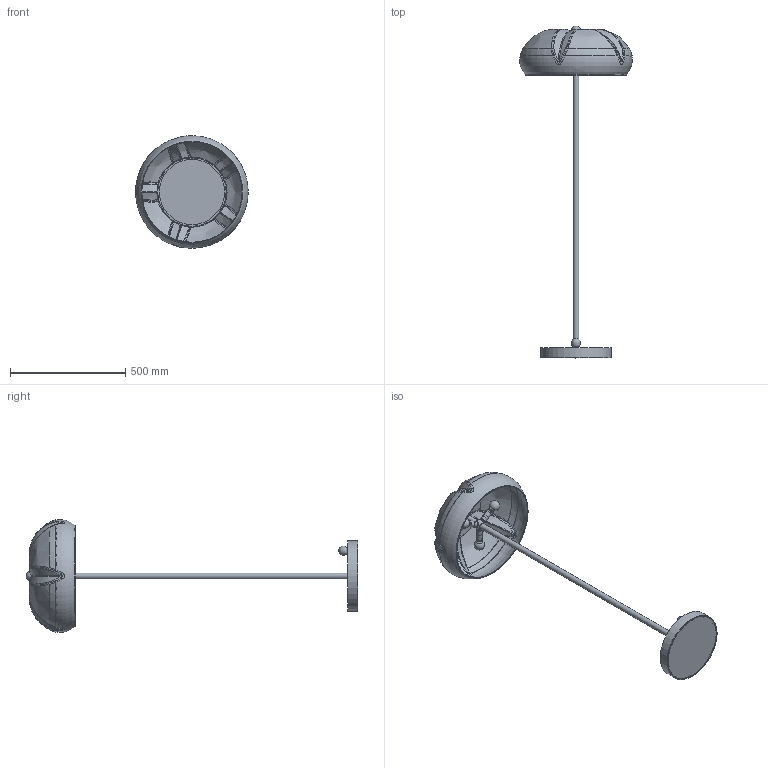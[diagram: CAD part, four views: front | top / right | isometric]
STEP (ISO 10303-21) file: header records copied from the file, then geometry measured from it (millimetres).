
FILE_DESCRIPTION(/* description */ ('','CAx-IF Rec.Pracs.---Representation and Presentation of Product Manufacturing Information (PMI)---4.0---2014-10-13'),/* implementation_level */ '2;1');
FILE_NAME(/* name */ 'B710 Hana Floor do katalogu.stp',/* time_stamp */ '2025-02-04T10:31:31+01:00',/* author */ ('Lukasz'),/* organization */ (''),/* preprocessor_version */ 'ST-DEVELOPER v20',/* originating_system */ 'Autodesk Inventor 2024',/* authorisation */ '');
FILE_SCHEMA (('AP242_MANAGED_MODEL_BASED_3D_ENGINEERING_MIM_LF { 1 0 10303 442 1 1 4 }'));
Length unit declared in the file: millimetre
Products named in the file (1): B710 Hana Floor do katalogu
Bounding box: 488.85 x 1441.91 x 489.64 mm (x, y, z)
Volume: 2930876.9 mm3; surface area: 1494551.7 mm2
Topology: 28 solids, 28 shells, 302 faces, 620 edges, 387 vertices
Faces by surface type: bspline 88, plane 83, cylinder 70, torus 37, cone 18, sphere 6
Full cylindrical faces by diameter (mm): 2.459 x3, 3 x3, 10 x1, 11.917 x2, 12 x3, 13 x4, 13.5 x3, 17 x3, 23 x3, 24 x6, 25 x8, 25.5 x2, 45 x3, 47.566 x1, 283 x1, 297 x1, 298 x1, 299 x1, 305 x1
Entity records: 10864 total; most frequent: CARTESIAN_POINT 4405, DIRECTION 1228, ORIENTED_EDGE 1216, EDGE_CURVE 608, AXIS2_PLACEMENT_3D 563, VERTEX_POINT 387, EDGE_LOOP 333, STYLED_ITEM 328
